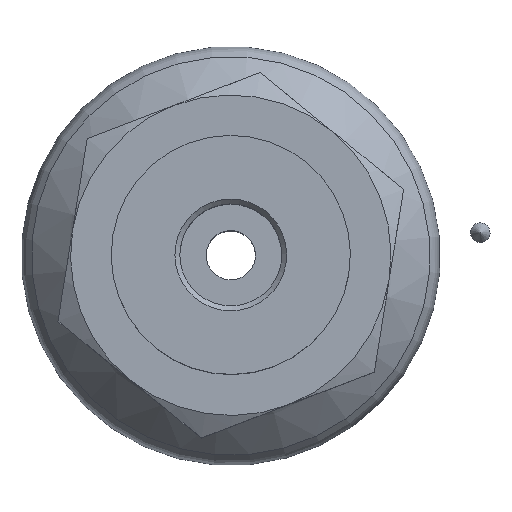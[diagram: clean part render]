
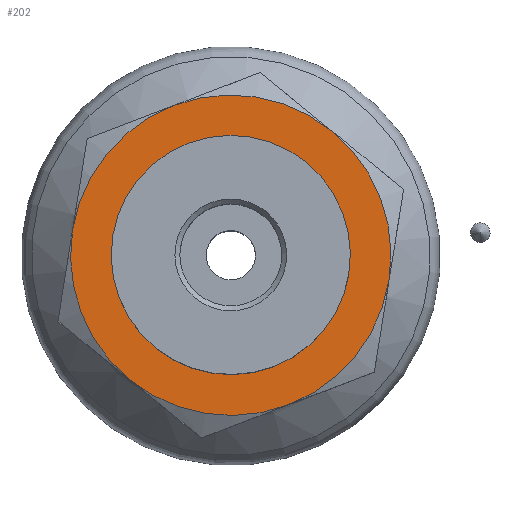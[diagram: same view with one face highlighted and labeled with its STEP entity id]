
A CAD part, top view. The second image highlights one B-rep face of the part: STEP entity #202.
In plain terms, the highlighted planar face has unit normal (0, 0, 1) as drawn and (1, 0, 0) by its records, which use the part's own axes.
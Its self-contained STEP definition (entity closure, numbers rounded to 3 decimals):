
#202=ADVANCED_FACE('',(#390,#391),#392,.F.);
#390=FACE_OUTER_BOUND('',#618,.T.);
#391=FACE_BOUND('',#619,.T.);
#392=PLANE('',#620);
#618=EDGE_LOOP('',(#916,#917,#918,#919,#920,#921));
#619=EDGE_LOOP('',(#922));
#620=AXIS2_PLACEMENT_3D('',#923,#924,#925);
#916=ORIENTED_EDGE('',*,*,#1210,.F.);
#917=ORIENTED_EDGE('',*,*,#1191,.F.);
#918=ORIENTED_EDGE('',*,*,#1224,.F.);
#919=ORIENTED_EDGE('',*,*,#1201,.F.);
#920=ORIENTED_EDGE('',*,*,#1218,.F.);
#921=ORIENTED_EDGE('',*,*,#1237,.F.);
#922=ORIENTED_EDGE('',*,*,#1238,.T.);
#923=CARTESIAN_POINT('',(2.5,11.258,6.5));
#924=DIRECTION('',(-1.0,0.,0.0));
#925=DIRECTION('',(0.0,0.0,1.0));
#1191=EDGE_CURVE('',#1330,#1326,#1331,.T.);
#1201=EDGE_CURVE('',#1347,#1343,#1348,.T.);
#1210=EDGE_CURVE('',#1326,#1357,#1361,.T.);
#1218=EDGE_CURVE('',#1369,#1347,#1373,.T.);
#1224=EDGE_CURVE('',#1343,#1330,#1380,.T.);
#1237=EDGE_CURVE('',#1357,#1369,#1399,.T.);
#1238=EDGE_CURVE('',#1400,#1400,#1401,.T.);
#1326=VERTEX_POINT('',#1527);
#1330=VERTEX_POINT('',#1539);
#1331=CIRCLE('',#1540,6.5);
#1343=VERTEX_POINT('',#1566);
#1347=VERTEX_POINT('',#1578);
#1348=CIRCLE('',#1579,6.5);
#1357=VERTEX_POINT('',#1601);
#1361=CIRCLE('',#1613,6.5);
#1369=VERTEX_POINT('',#1630);
#1373=CIRCLE('',#1642,6.5);
#1380=CIRCLE('',#1657,6.5);
#1399=CIRCLE('',#1680,6.5);
#1400=VERTEX_POINT('',#1681);
#1401=CIRCLE('',#1682,4.0);
#1527=CARTESIAN_POINT('',(2.5,-5.629,3.25));
#1539=CARTESIAN_POINT('',(2.5,-5.629,-3.25));
#1540=AXIS2_PLACEMENT_3D('',#1802,#1803,#1804);
#1566=CARTESIAN_POINT('',(2.5,0.,-6.5));
#1578=CARTESIAN_POINT('',(2.5,5.629,-3.25));
#1579=AXIS2_PLACEMENT_3D('',#1807,#1808,#1809);
#1601=CARTESIAN_POINT('',(2.5,0.0,6.5));
#1613=AXIS2_PLACEMENT_3D('',#1811,#1812,#1813);
#1630=CARTESIAN_POINT('',(2.5,5.629,3.25));
#1642=AXIS2_PLACEMENT_3D('',#1815,#1816,#1817);
#1657=AXIS2_PLACEMENT_3D('',#1821,#1822,#1823);
#1680=AXIS2_PLACEMENT_3D('',#1842,#1843,#1844);
#1681=CARTESIAN_POINT('',(2.5,0.0,4.0));
#1682=AXIS2_PLACEMENT_3D('',#1845,#1846,#1847);
#1802=CARTESIAN_POINT('',(2.5,0.,0.0));
#1803=DIRECTION('',(-1.0,0.,0.0));
#1804=DIRECTION('',(0.,-1.0,0.0));
#1807=CARTESIAN_POINT('',(2.5,0.,0.0));
#1808=DIRECTION('',(-1.0,0.,0.0));
#1809=DIRECTION('',(0.,-1.0,0.0));
#1811=CARTESIAN_POINT('',(2.5,0.,0.0));
#1812=DIRECTION('',(-1.0,0.,0.0));
#1813=DIRECTION('',(0.,-1.0,0.0));
#1815=CARTESIAN_POINT('',(2.5,0.,0.0));
#1816=DIRECTION('',(-1.0,0.,0.0));
#1817=DIRECTION('',(0.,-1.0,0.0));
#1821=CARTESIAN_POINT('',(2.5,0.,0.0));
#1822=DIRECTION('',(-1.0,0.,0.0));
#1823=DIRECTION('',(0.,-1.0,0.0));
#1842=CARTESIAN_POINT('',(2.5,0.0,0.0));
#1843=DIRECTION('',(-1.0,0.0,0.0));
#1844=DIRECTION('',(0.0,0.0,1.0));
#1845=CARTESIAN_POINT('',(2.5,0.0,0.0));
#1846=DIRECTION('',(-1.0,0.0,0.0));
#1847=DIRECTION('',(0.0,0.0,1.0));
